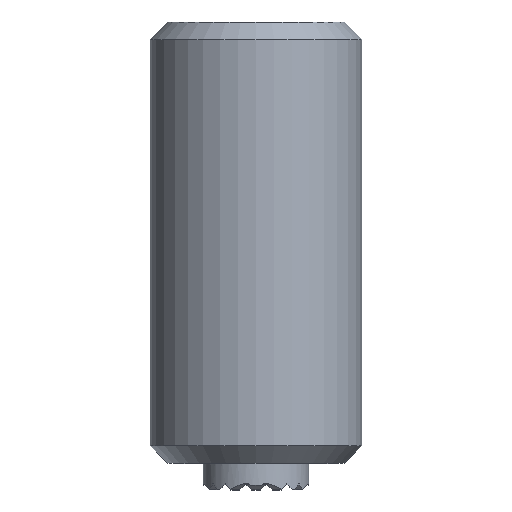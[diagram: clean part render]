
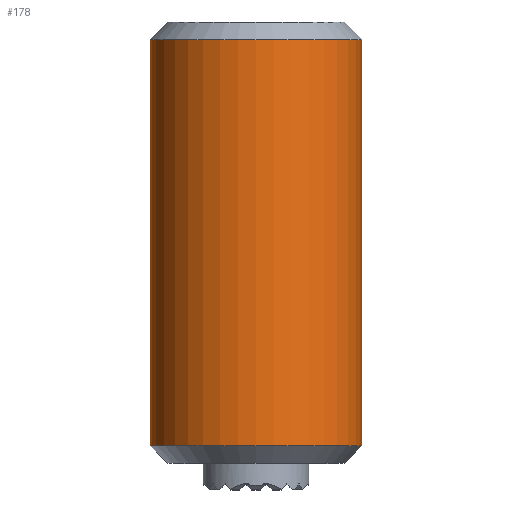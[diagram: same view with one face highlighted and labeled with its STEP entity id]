
A CAD part, top view. The second image highlights one B-rep face of the part: STEP entity #178.
In plain terms, the highlighted cylindrical face has radius 6 mm (diameter 12 mm), a full revolution.
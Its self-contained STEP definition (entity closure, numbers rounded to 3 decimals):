
#178 = ADVANCED_FACE( '', ( #357, #358 ), #359, .T. );
#357 = FACE_OUTER_BOUND( '', #691, .T. );
#358 = FACE_OUTER_BOUND( '', #692, .T. );
#359 = CYLINDRICAL_SURFACE( '', #693, 6. );
#691 = EDGE_LOOP( '', ( #1053 ) );
#692 = EDGE_LOOP( '', ( #1054 ) );
#693 = AXIS2_PLACEMENT_3D( '', #1055, #1056, #1057 );
#1053 = ORIENTED_EDGE( '', *, *, #2180, .F. );
#1054 = ORIENTED_EDGE( '', *, *, #2163, .T. );
#1055 = CARTESIAN_POINT( '', ( 0., 0., 0. ) );
#1056 = DIRECTION( '', ( 0., 1., 0. ) );
#1057 = DIRECTION( '', ( 0., 0., -1. ) );
#2163 = EDGE_CURVE( '', #2502, #2502, #2503, .T. );
#2180 = EDGE_CURVE( '', #2534, #2534, #2535, .T. );
#2502 = VERTEX_POINT( '', #3028 );
#2503 = CIRCLE( '', #3029, 6. );
#2534 = VERTEX_POINT( '', #3071 );
#2535 = CIRCLE( '', #3072, 6. );
#3028 = CARTESIAN_POINT( '', ( 0., 24., -6. ) );
#3029 = AXIS2_PLACEMENT_3D( '', #3828, #3829, #3830 );
#3071 = CARTESIAN_POINT( '', ( 0., 1., -6. ) );
#3072 = AXIS2_PLACEMENT_3D( '', #3857, #3858, #3859 );
#3828 = CARTESIAN_POINT( '', ( 0., 24., 0. ) );
#3829 = DIRECTION( '', ( 0., -1., 0. ) );
#3830 = DIRECTION( '', ( 0., 0., -1. ) );
#3857 = CARTESIAN_POINT( '', ( 0., 1., 0. ) );
#3858 = DIRECTION( '', ( 0., -1., 0. ) );
#3859 = DIRECTION( '', ( 0., 0., -1. ) );
